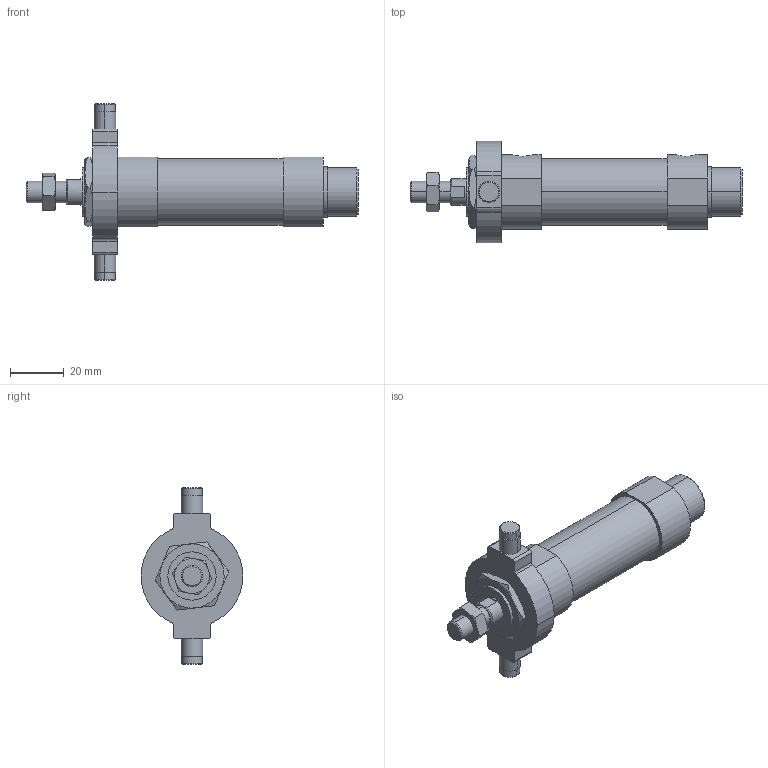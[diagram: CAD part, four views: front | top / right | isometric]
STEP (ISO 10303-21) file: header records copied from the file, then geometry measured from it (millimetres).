
FILE_DESCRIPTION (( 'STEP AP203' ), '1' );
FILE_NAME ('J#2-20-15-T.STEP', '2016-03-08T06:53:29', ( '' ), ( '' ), 'SwSTEP 2.0', 'SolidWorks 2014', '' );
FILE_SCHEMA (( 'CONFIG_CONTROL_DESIGN' ));
Length unit declared in the file: millimetre
Products named in the file (5): J#2-20-15-T; J#2-20-T; J#2-20-15
Assembly tree (4 placements, depth 2):
  J#2-20-15-T
    J#2-20-15
    (unnamed)
    (unnamed)
    J#2-20-T
Bounding box: 124 x 38 x 66 mm (x, y, z)
Volume: 58694.5 mm3; surface area: 16174.9 mm2
Topology: 4 solids, 4 shells, 131 faces, 291 edges, 180 vertices
Faces by surface type: cylinder 47, plane 46, torus 24, cone 14
Entity records: 4496 total; most frequent: CARTESIAN_POINT 1065, DIRECTION 639, ORIENTED_EDGE 582, EDGE_CURVE 291, AXIS2_PLACEMENT_3D 266, VERTEX_POINT 180, EDGE_LOOP 149, FACE_OUTER_BOUND 131
